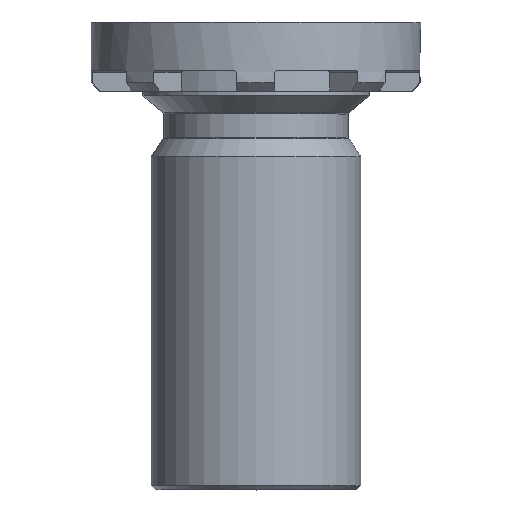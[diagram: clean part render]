
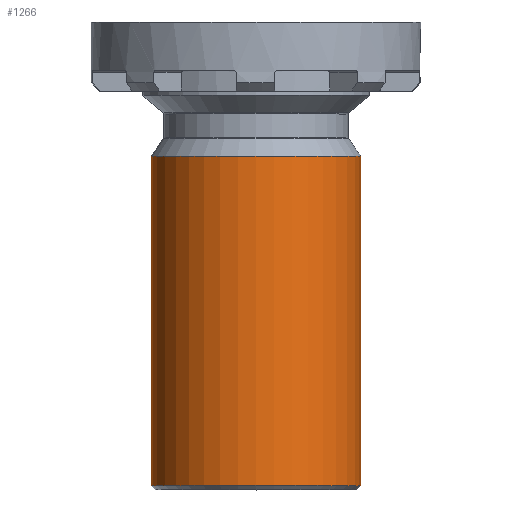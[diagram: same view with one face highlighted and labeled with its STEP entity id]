
A CAD part, top view. The second image highlights one B-rep face of the part: STEP entity #1266.
In plain terms, the highlighted cylindrical face has radius 5 mm (diameter 10 mm), a full revolution.
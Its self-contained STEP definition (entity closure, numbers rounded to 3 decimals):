
#36=CYLINDRICAL_SURFACE('',#1434,5.);
#84=CIRCLE('',#1431,5.);
#85=CIRCLE('',#1432,5.);
#86=CIRCLE('',#1435,5.);
#173=FACE_OUTER_BOUND('',#242,.T.);
#242=EDGE_LOOP('',(#1069,#1070,#1071,#1072,#1073));
#333=LINE('',#2246,#420);
#420=VECTOR('',#1812,5.);
#573=VERTEX_POINT('',#2238);
#574=VERTEX_POINT('',#2240);
#575=VERTEX_POINT('',#2245);
#758=EDGE_CURVE('',#573,#574,#84,.T.);
#759=EDGE_CURVE('',#574,#573,#85,.T.);
#760=EDGE_CURVE('',#574,#575,#333,.T.);
#761=EDGE_CURVE('',#575,#575,#86,.T.);
#1069=ORIENTED_EDGE('',*,*,#758,.F.);
#1070=ORIENTED_EDGE('',*,*,#759,.F.);
#1071=ORIENTED_EDGE('',*,*,#760,.T.);
#1072=ORIENTED_EDGE('',*,*,#761,.T.);
#1073=ORIENTED_EDGE('',*,*,#760,.F.);
#1266=ADVANCED_FACE('',(#173),#36,.T.);
#1431=AXIS2_PLACEMENT_3D('',#2241,#1804,#1805);
#1432=AXIS2_PLACEMENT_3D('',#2242,#1806,#1807);
#1434=AXIS2_PLACEMENT_3D('',#2244,#1810,#1811);
#1435=AXIS2_PLACEMENT_3D('',#2247,#1813,#1814);
#1804=DIRECTION('center_axis',(0.,-1.,0.));
#1805=DIRECTION('ref_axis',(-1.,0.,0.));
#1806=DIRECTION('center_axis',(0.,-1.,0.));
#1807=DIRECTION('ref_axis',(-1.,0.,0.));
#1810=DIRECTION('center_axis',(0.,-1.,0.));
#1811=DIRECTION('ref_axis',(1.,0.,0.));
#1812=DIRECTION('',(0.,1.,0.));
#1813=DIRECTION('center_axis',(0.,-1.,0.));
#1814=DIRECTION('ref_axis',(1.,0.,0.));
#2238=CARTESIAN_POINT('',(5.,0.2,0.));
#2240=CARTESIAN_POINT('',(-5.,0.2,0.));
#2241=CARTESIAN_POINT('Origin',(0.,0.2,0.));
#2242=CARTESIAN_POINT('Origin',(0.,0.2,0.));
#2244=CARTESIAN_POINT('Origin',(0.,7.95,0.));
#2245=CARTESIAN_POINT('',(-5.,15.9,0.));
#2246=CARTESIAN_POINT('',(-5.,7.95,0.));
#2247=CARTESIAN_POINT('Origin',(0.,15.9,0.));
